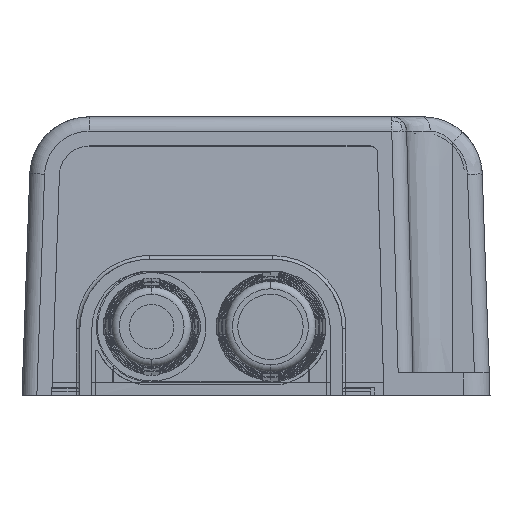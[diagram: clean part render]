
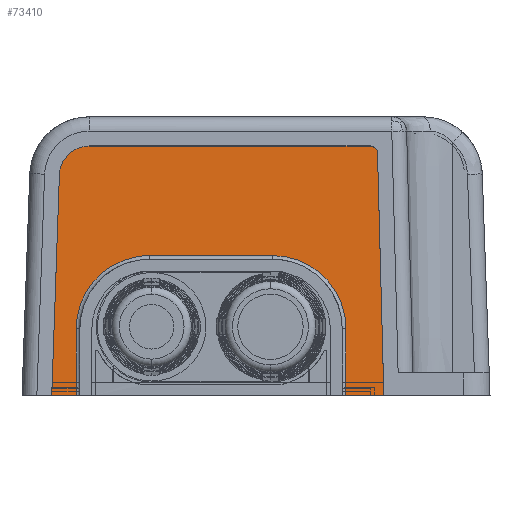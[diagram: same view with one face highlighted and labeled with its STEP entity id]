
A CAD part, left-side view. The second image highlights one B-rep face of the part: STEP entity #73410.
In plain terms, the highlighted planar face has unit normal (-0.999, 0, 0.035).
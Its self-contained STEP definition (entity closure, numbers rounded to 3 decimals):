
#3780=CARTESIAN_POINT('',(-85.117,28.017,
-0.5));
#3790=VERTEX_POINT('',#3780);
#3820=CARTESIAN_POINT('',(-85.117,0.5,
-0.5));
#3830=DIRECTION('',(0.,1.,0.));
#3840=VECTOR('',#3830,1.);
#3850=LINE('',#3820,#3840);
#3860=CARTESIAN_POINT('',(-85.117,24.722,
-0.5));
#3870=VERTEX_POINT('',#3860);
#3880=EDGE_CURVE('',#3870,#3790,#3850,.T.);
#9240=CARTESIAN_POINT('',(-85.117,-11.616,
-0.5));
#9250=VERTEX_POINT('',#9240);
#9280=CARTESIAN_POINT('',(-85.117,0.5,
-0.5));
#9290=DIRECTION('',(0.,1.,0.));
#9300=VECTOR('',#9290,1.);
#9310=LINE('',#9280,#9300);
#9320=CARTESIAN_POINT('',(-85.117,-16.718,
-0.5));
#9330=VERTEX_POINT('',#9320);
#9340=EDGE_CURVE('',#9330,#9250,#9310,.T.);
#37410=CARTESIAN_POINT('',(-84.805,-11.616,
8.433));
#37420=VERTEX_POINT('',#37410);
#37450=CARTESIAN_POINT('',(-85.117,-11.616,
-0.5));
#37460=DIRECTION('',(-0.035,0.,
-0.999));
#37470=VECTOR('',#37460,1.);
#37480=LINE('',#37450,#37470);
#37490=EDGE_CURVE('',#37420,#9250,#37480,.T.);
#71900=CARTESIAN_POINT('',(-83.945,-17.632,
33.057));
#71910=DIRECTION('',(0.,1.,0.));
#71920=VECTOR('',#71910,1.);
#71930=LINE('',#71900,#71920);
#71940=CARTESIAN_POINT('',(-83.945,-14.865,
33.057));
#71950=VERTEX_POINT('',#71940);
#71960=CARTESIAN_POINT('',(-83.945,22.982,
33.055));
#71970=VERTEX_POINT('',#71960);
#71980=EDGE_CURVE('',#71950,#71970,#71930,.T.);
#72430=CARTESIAN_POINT('',(-84.076,26.976,
29.312));
#72440=VERTEX_POINT('',#72430);
#72470=CARTESIAN_POINT('',(-85.1,28.,
0.));
#72480=DIRECTION('',(0.035,-0.035,
0.999));
#72490=VECTOR('',#72480,1.);
#72500=LINE('',#72470,#72490);
#72510=EDGE_CURVE('',#3790,#72440,#72500,.T.);
#72700=CARTESIAN_POINT('',(-84.085,22.982,
29.056));
#72710=DIRECTION('',(-0.999,0.,0.035));
#72720=DIRECTION('',(0.035,0.,
0.999));
#72730=AXIS2_PLACEMENT_3D('',#72700,#72710,#72720);
#72740=CIRCLE('',#72730,4.002);
#72750=EDGE_CURVE('',#71970,#72440,#72740,.T.);
#72810=CARTESIAN_POINT('',(-84.29,0.35,
23.181));
#72820=DIRECTION('',(-0.999,0.,0.035));
#72830=DIRECTION('',(0.035,0.,0.999));
#72840=AXIS2_PLACEMENT_3D('',#72810,#72820,#72830);
#72850=PLANE('',#72840);
#72860=CARTESIAN_POINT('',(-84.461,-1.747,
18.302));
#72870=DIRECTION('',(0.,-1.,0.));
#72880=VECTOR('',#72870,1.);
#72890=LINE('',#72860,#72880);
#72900=CARTESIAN_POINT('',(-84.461,14.853,
18.302));
#72910=VERTEX_POINT('',#72900);
#72920=CARTESIAN_POINT('',(-84.461,-1.747,
18.302));
#72930=VERTEX_POINT('',#72920);
#72940=EDGE_CURVE('',#72910,#72930,#72890,.T.);
#72950=ORIENTED_EDGE('',*,*,#72940,.T.);
#72960=CARTESIAN_POINT('',(-84.805,14.853,
8.433));
#72970=DIRECTION('',(0.999,0.,-0.035));
#72980=DIRECTION('',(-0.035,0.,
-0.999));
#72990=AXIS2_PLACEMENT_3D('',#72960,#72970,#72980);
#73000=ELLIPSE('',#72990,9.875,9.869);
#73010=CARTESIAN_POINT('',(-84.805,24.722,
8.433));
#73020=VERTEX_POINT('',#73010);
#73030=EDGE_CURVE('',#73020,#72910,#73000,.T.);
#73040=ORIENTED_EDGE('',*,*,#73030,.T.);
#73050=CARTESIAN_POINT('',(-84.805,24.722,
8.45));
#73060=DIRECTION('',(0.035,0.,
0.999));
#73070=VECTOR('',#73060,1.);
#73080=LINE('',#73050,#73070);
#73090=EDGE_CURVE('',#3870,#73020,#73080,.T.);
#73100=ORIENTED_EDGE('',*,*,#73090,.T.);
#73110=ORIENTED_EDGE('',*,*,#3880,.F.);
#73120=ORIENTED_EDGE('',*,*,#72510,.F.);
#73130=ORIENTED_EDGE('',*,*,#72750,.T.);
#73140=ORIENTED_EDGE('',*,*,#71980,.T.);
#73150=CARTESIAN_POINT('',(-83.98,-14.865,
32.058));
#73160=DIRECTION('',(-0.999,0.,0.035));
#73170=DIRECTION('',(0.035,0.,0.999));
#73180=AXIS2_PLACEMENT_3D('',#73150,#73160,#73170);
#73190=CIRCLE('',#73180,1.);
#73200=CARTESIAN_POINT('',(-83.979,-15.865,
32.084));
#73210=VERTEX_POINT('',#73200);
#73220=EDGE_CURVE('',#73210,#71950,#73190,.T.);
#73230=ORIENTED_EDGE('',*,*,#73220,.T.);
#73240=CARTESIAN_POINT('',(-85.1,-16.705,
0.));
#73250=DIRECTION('',(0.035,0.026,
0.999));
#73260=VECTOR('',#73250,1.);
#73270=LINE('',#73240,#73260);
#73280=EDGE_CURVE('',#9330,#73210,#73270,.T.);
#73290=ORIENTED_EDGE('',*,*,#73280,.T.);
#73300=ORIENTED_EDGE('',*,*,#9340,.F.);
#73310=ORIENTED_EDGE('',*,*,#37490,.T.);
#73320=CARTESIAN_POINT('',(-84.805,-1.747,
8.433));
#73330=DIRECTION('',(0.999,0.,-0.035));
#73340=DIRECTION('',(-0.035,0.,
-0.999));
#73350=AXIS2_PLACEMENT_3D('',#73320,#73330,#73340);
#73360=ELLIPSE('',#73350,9.875,9.869);
#73370=EDGE_CURVE('',#72930,#37420,#73360,.T.);
#73380=ORIENTED_EDGE('',*,*,#73370,.T.);
#73390=EDGE_LOOP('',(#73380,#73310,#73300,#73290,#73230,#73140,#73130,
#73120,#73110,#73100,#73040,#72950));
#73400=FACE_OUTER_BOUND('',#73390,.T.);
#73410=ADVANCED_FACE('',(#73400),#72850,.T.);
